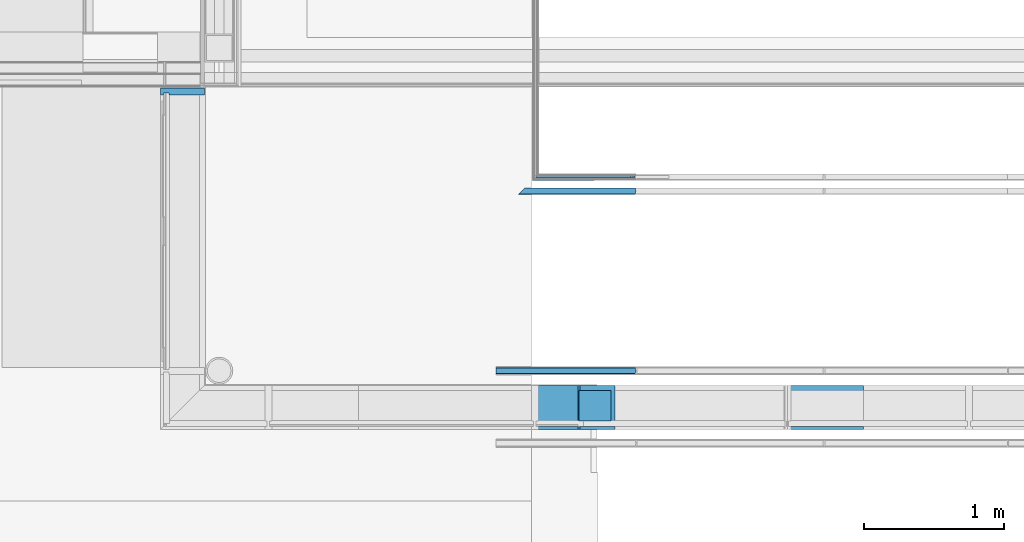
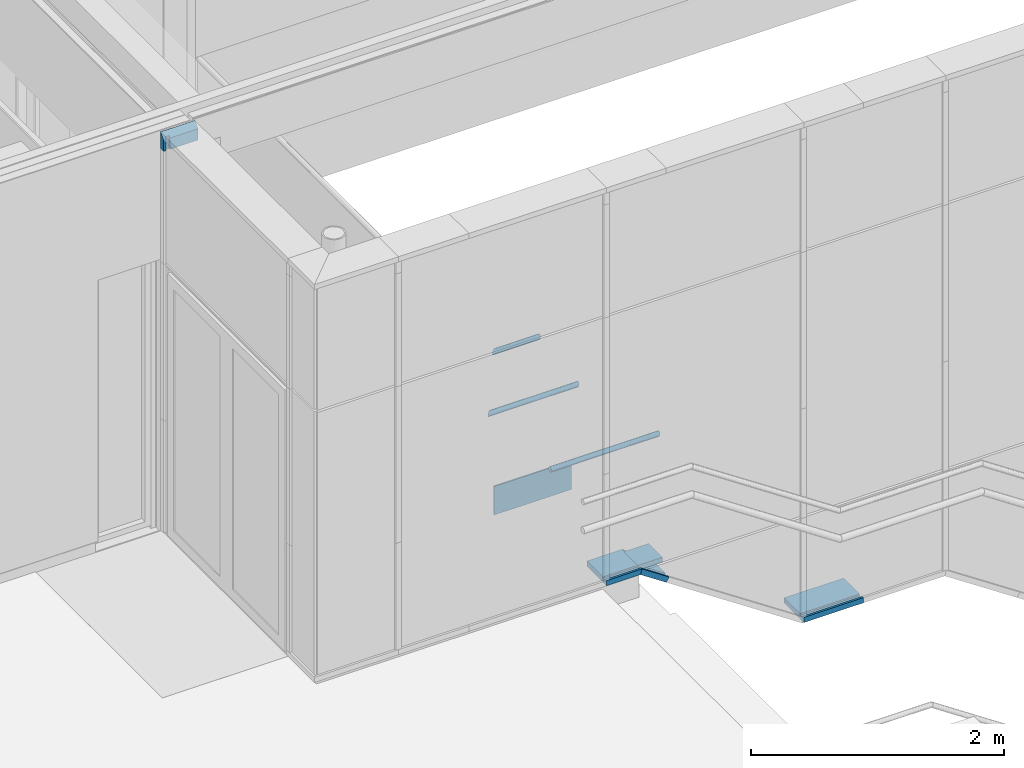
# One storey, part 29 of 137: 8 members, 1 beam, 4 elements without a shape of their own.
"""IFC2X3 building model written with IfcOpenShell, lengths in millimetres."""

from ifc_helpers import new_model, entity, si_unit, converted_unit, derived_unit, money_unit, direction, frame, origin_with_axes, place, context, subcontext, project, spatial, faceted_brep, material, type_object, element, aggregate, save


model = new_model("IFC2X3")

# Units and contexts
model_context = context("Model", 3, precision=0.01, world=origin_with_axes(), true_north=direction((0.0, 1.0)))
body_context = subcontext(model_context, "Body", "Model", "MODEL_VIEW")
ifc_project = project(units=[si_unit("LENGTHUNIT", "METRE", prefix="MILLI"), si_unit("AREAUNIT", "SQUARE_METRE"), si_unit("VOLUMEUNIT", "CUBIC_METRE"), converted_unit("PLANEANGLEUNIT", "DEGREE", entity("IfcPlaneAngleMeasure", 0.0174532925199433), si_unit("PLANEANGLEUNIT", "RADIAN"), dimensions=[0, 0, 0, 0, 0, 0, 0]), money_unit("EUR"), converted_unit("TIMEUNIT", "Year", entity("IfcTimeMeasure", 31556926.0), si_unit("TIMEUNIT", "SECOND"), dimensions=[0, 0, 1, 0, 0, 0, 0]), si_unit("MASSUNIT", "GRAM", prefix="KILO"), si_unit("THERMODYNAMICTEMPERATUREUNIT", "DEGREE_CELSIUS"), si_unit("LUMINOUSINTENSITYUNIT", "LUMEN"), si_unit("ENERGYUNIT", "JOULE", prefix="MEGA"), derived_unit("THERMALCONDUCTANCEUNIT", [(si_unit("POWERUNIT", "WATT"), 1), (si_unit("LENGTHUNIT", "METRE"), -1), (si_unit("THERMODYNAMICTEMPERATUREUNIT", "KELVIN"), -1)]), derived_unit("SPECIFICHEATCAPACITYUNIT", [(si_unit("ENERGYUNIT", "JOULE"), 1), (si_unit("MASSUNIT", "GRAM", prefix="KILO"), -1), (si_unit("THERMODYNAMICTEMPERATUREUNIT", "KELVIN"), -1)]), derived_unit("MASSDENSITYUNIT", [(si_unit("MASSUNIT", "GRAM", prefix="KILO"), 1), (si_unit("VOLUMEUNIT", "CUBIC_METRE"), -1)])], contexts=[model_context])

# Site, building, storey
site_placement = place(None, origin_with_axes())
site = spatial("IfcSite", under=ifc_project, at=site_placement, Name="Site", CompositionType="ELEMENT")
building_placement = place(site_placement, origin_with_axes())
building = spatial("IfcBuilding", under=site, at=building_placement, Name="Naam gebouw", CompositionType="ELEMENT")
storey_placement = place(building_placement, frame((0.0, 0.0, 3960.0), z_axis=(0.0, 0.0, 1.0), x_axis=(1.0, 0.0, 0.0)))
storey = spatial("IfcBuildingStorey", under=building, at=storey_placement, Name="1e verdieping", CompositionType="ELEMENT", Elevation=3960.0)

# Beam
ifc_material_1 = material(Name="Gipsplaat")
beam_type = type_object("IfcBeamType", Name="Gipsplaat 13 x 275", PredefinedType="BEAM")
beam_placement = place(storey_placement, frame((11813.75002486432, 5963.750496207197, -124.9999996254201), z_axis=(0.0, 0.0, 1.0), x_axis=(-6.69320261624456e-07, 0.9999999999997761, 0.0)))
element("IfcBeam", 1, at=beam_placement, inside=storey, type_object=beam_type, material=ifc_material_1, Name="f7 Vormvaste grondstoffen, gebonden met gips_Regenwaterafvoer-x", ObjectType="BEAM", context=body_context, shape_type="Brep", body=[
    faceted_brep([(6.249999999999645, 704.9544323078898, 0.0), (6.249999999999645, 31.59695460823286, 5.696954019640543e-08), (6.249999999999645, 0.0, -21.06463667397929), (6.249999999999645, 0.0, -274.9999999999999), (6.249999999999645, 704.9544323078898, -274.9999999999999), (-6.250000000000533, 704.9544323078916, 0.0), (-6.250000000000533, 31.59696277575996, 1.673408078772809e-07), (-6.250000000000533, 0.0, -21.06464200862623), (-6.250000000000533, 0.0, -274.9999999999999), (-6.250000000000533, 704.9544323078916, -274.9999999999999)], [[[0, 1, 2, 3, 4]], [[5, 6, 1, 0]], [[6, 7, 2, 1]], [[3, 2, 7, 8]], [[9, 4, 3, 8]], [[0, 4, 9, 5]], [[8, 7, 6, 5, 9]]]),
    faceted_brep([(-6.250000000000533, 0.0, 0.0), (-6.250000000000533, 0.0, -9.046137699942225), (6.249999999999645, 0.0, -9.046132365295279), (6.249999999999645, 0.0, 0.0), (-6.250000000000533, 13.56920634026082, 0.0), (6.249999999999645, 13.56919833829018, 0.0)], [[[0, 1, 2, 3]], [[0, 4, 1]], [[4, 5, 2, 1]], [[3, 2, 5]], [[3, 5, 4, 0]]]),
])

# Railing, member
railing_type = type_object("IfcRailingType", Name="Railing Type", PredefinedType="NOTDEFINED")
railing_1_placement = place(storey_placement, frame((18520.00002097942, 5850.000227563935, -3240.0), z_axis=(0.0, 0.0, 1.0), x_axis=(1.0, 0.0, 0.0)))
railing_1 = element("IfcRailing", 2, at=railing_1_placement, inside=storey, type_object=railing_type, Name="34_Reling-x", PredefinedType="NOTDEFINED")
ifc_material_2 = material(Name="Metaal - RVS")
member_type_1 = type_object("IfcMemberType", Name="IfcMember", PredefinedType="USERDEFINED")
member_1_placement = place(railing_1_placement, frame((-7107.514520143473, 9.999797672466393, 3885.99895834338), z_axis=(0.0, 0.0, 1.0), x_axis=(1.0, 0.0, 0.0)))
member_1 = element("IfcMember", 3, at=member_1_placement, type_object=member_type_1, material=ifc_material_2, Name="h3 Staal legeringen_Handregel-x", context=body_context, shape_type="Brep", body=[
    faceted_brep([(400.2025484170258, -24.15000163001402, 29.85104165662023), (401.4722693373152, -23.78310858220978, 34.04464514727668), (-431.3230507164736, -23.78310723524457, 34.04464514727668), (-431.6903348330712, -24.14999999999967, 29.85104165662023), (398.9328273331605, -23.78310914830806, 25.65743816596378), (397.7016859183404, -22.69357897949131, 21.5912551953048), (396.5465317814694, -20.91451594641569, 17.77604165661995), (395.5024636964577, -18.4999759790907, 14.32772088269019), (394.6012051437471, -15.52332365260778, 11.35106835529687), (393.8701404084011, -12.0750030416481, 8.93652815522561), (393.3314825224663, -8.259789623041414, 7.157464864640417), (393.0015983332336, -4.193606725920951, 6.067934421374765), (392.8905112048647, -3.26002869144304e-06, 5.701041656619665), (393.0015964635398, 4.193600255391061, 6.067934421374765), (393.3314788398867, 8.259783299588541, 7.157464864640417), (393.8701350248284, 12.07499695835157, 8.93652815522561), (394.6011982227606, 15.5233178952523, 11.35106835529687), (395.502455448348, 18.49997062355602, 14.32772088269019), (396.5465224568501, 20.91451105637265, 17.77604165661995), (397.7016758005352, 22.69357460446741, 21.5912551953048), (398.9328167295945, 23.78310532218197, 25.65743816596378), (400.2025376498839, 24.14999836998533, 29.85104165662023), (401.4722587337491, 23.78310588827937, 34.04464514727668), (402.7034001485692, 22.69357571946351, 38.11082811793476), (403.8585542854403, 20.914512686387, 41.92604165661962), (404.9026223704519, 18.49997271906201, 45.37436243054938), (405.8038809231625, 15.52332039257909, 48.35101495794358), (406.5349456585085, 12.07499978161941, 50.76555515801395), (407.0736035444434, 8.259786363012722, 52.54461844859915), (407.4034877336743, 4.193603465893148, 53.6341488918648), (407.514574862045, 0.0, 54.0010416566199), (407.4034896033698, -4.193603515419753, 53.6341488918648), (407.0736072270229, -8.259786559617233, 52.54461844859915), (406.5349510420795, -12.07500021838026, 50.76555515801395), (405.803887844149, -15.52332115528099, 48.35101495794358), (404.9026306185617, -18.49997388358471, 45.37436243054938), (403.8585636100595, -20.91451431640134, 41.92604165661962), (402.7034102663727, -22.69357786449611, 38.11082811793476), (-430.2323581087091, -22.69357679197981, 38.11082811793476), (-428.4513971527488, -20.91451350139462, 41.92604165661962), (-426.034281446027, -18.49997330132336, 45.37436243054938), (-423.0544538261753, -15.52332077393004, 48.35101495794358), (-419.6024548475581, -12.07500000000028, 50.76555515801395), (-415.7831717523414, -8.259786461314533, 52.54461844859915), (-411.7126515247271, -4.19360349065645, 53.6341488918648), (-407.514574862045, 0.0, 54.0010416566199), (-403.3164981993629, 4.19360349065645, 53.6341488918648), (-399.2459779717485, 8.259786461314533, 52.54461844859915), (-395.4266948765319, 12.07500000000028, 50.76555515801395), (-391.9746958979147, 15.52332077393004, 48.35101495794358), (-388.9948682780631, 18.49997330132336, 45.37436243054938), (-386.5777525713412, 20.91451350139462, 41.92604165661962), (-384.7967916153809, 22.69357679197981, 38.11082811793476), (-383.7060990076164, 23.78310723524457, 34.04464514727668), (-383.3388148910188, 24.14999999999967, 29.85104165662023), (-383.7060990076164, 23.78310723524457, 25.65743816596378), (-384.7967916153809, 22.69357679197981, 21.5912551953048), (-386.5777525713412, 20.91451350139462, 17.77604165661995), (-388.9948682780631, 18.49997330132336, 14.32772088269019), (-391.9746958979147, 15.52332077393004, 11.35106835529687), (-395.4266948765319, 12.07500000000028, 8.93652815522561), (-399.2459779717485, 8.259786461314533, 7.157464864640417), (-403.3164981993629, 4.19360349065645, 6.067934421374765), (-407.514574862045, 0.0, 5.701041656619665), (-411.7126515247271, -4.19360349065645, 6.067934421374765), (-415.7831717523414, -8.259786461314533, 7.157464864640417), (-419.6024548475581, -12.07500000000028, 8.93652815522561), (-423.0544538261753, -15.52332077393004, 11.35106835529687), (-426.034281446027, -18.49997330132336, 14.32772088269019), (-428.4513971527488, -20.91451350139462, 17.77604165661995), (-430.2323581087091, -22.69357679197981, 21.5912551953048), (-431.3230507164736, -23.78310723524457, 25.65743816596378)], [[[0, 1, 2, 3]], [[0, 4, 5, 6, 7, 8, 9, 10, 11, 12, 13, 14, 15, 16, 17, 18, 19, 20, 21, 22, 23, 24, 25, 26, 27, 28, 29, 30, 31, 32, 33, 34, 35, 36, 37, 1]], [[1, 37, 38, 2]], [[3, 2, 38, 39, 40, 41, 42, 43, 44, 45, 46, 47, 48, 49, 50, 51, 52, 53, 54, 55, 56, 57, 58, 59, 60, 61, 62, 63, 64, 65, 66, 67, 68, 69, 70, 71]], [[4, 0, 3, 71]], [[5, 4, 71, 70]], [[6, 5, 70, 69]], [[7, 6, 69, 68]], [[8, 7, 68, 67]], [[9, 8, 67, 66]], [[10, 9, 66, 65]], [[11, 10, 65, 64]], [[12, 11, 64, 63]], [[13, 12, 63, 62]], [[14, 13, 62, 61]], [[15, 14, 61, 60]], [[16, 15, 60, 59]], [[17, 16, 59, 58]], [[18, 17, 58, 57]], [[19, 18, 57, 56]], [[20, 19, 56, 55]], [[21, 20, 55, 54]], [[22, 21, 54, 53]], [[23, 22, 53, 52]], [[24, 23, 52, 51]], [[25, 24, 51, 50]], [[26, 25, 50, 49]], [[27, 26, 49, 48]], [[28, 27, 48, 47]], [[29, 28, 47, 46]], [[30, 29, 46, 45]], [[31, 30, 45, 44]], [[32, 31, 44, 43]], [[33, 32, 43, 42]], [[34, 33, 42, 41]], [[35, 34, 41, 40]], [[36, 35, 40, 39]], [[37, 36, 39, 38]]]),
])
aggregate(railing_1, [member_1])

railing_2_placement = place(storey_placement, frame((18789.99987047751, 4479.999999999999, -4086.699999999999), z_axis=(0.0, 0.0, 1.0), x_axis=(1.0, 0.0, 0.0)))
railing_2 = element("IfcRailing", 4, at=railing_2_placement, inside=storey, type_object=railing_type, Name="34_Reling-x", PredefinedType="NOTDEFINED")
member_2_placement = place(railing_2_placement, frame((-7468.117360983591, 99.99999999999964, 5032.675675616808), z_axis=(0.0, 0.0, 1.0), x_axis=(1.0, 0.0, 0.0)))
member_2 = element("IfcMember", 5, at=member_2_placement, type_object=member_type_1, material=ifc_material_2, Name="h3 Staal legeringen_", context=body_context, shape_type="Brep", body=[
    faceted_brep([(490.8055038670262, -24.14999999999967, 29.85104165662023), (492.0752249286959, -23.78310723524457, 34.04464514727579), (-498.1175360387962, -23.78310723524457, 34.04464514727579), (-498.1175360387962, -24.14999999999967, 29.85104165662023), (489.5357828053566, -23.78310723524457, 25.65743816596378), (488.3046415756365, -22.69357679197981, 21.5912551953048), (487.1494877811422, -20.91451350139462, 17.77604165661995), (486.1054201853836, -18.49997330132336, 14.32772088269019), (485.204162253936, -15.52332077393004, 11.35106835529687), (484.4730982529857, -12.07500000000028, 8.93652815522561), (483.9344411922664, -8.259786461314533, 7.157464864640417), (483.6045578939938, -4.19360349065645, 6.067934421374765), (483.4934716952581, 0.0, 5.701041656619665), (483.6045578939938, 4.19360349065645, 6.067934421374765), (483.9344411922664, 8.259786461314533, 7.157464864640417), (484.4730982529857, 12.07500000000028, 8.93652815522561), (485.204162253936, 15.52332077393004, 11.35106835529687), (486.1054201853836, 18.49997330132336, 14.32772088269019), (487.1494877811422, 20.91451350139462, 17.77604165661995), (488.3046415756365, 22.69357679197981, 21.5912551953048), (489.5357828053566, 23.78310723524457, 25.65743816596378), (490.8055038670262, 24.14999999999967, 29.85104165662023), (492.0752249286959, 23.78310723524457, 34.04464514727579), (493.3063661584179, 22.69357679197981, 38.11082811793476), (494.4615199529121, 20.91451350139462, 41.92604165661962), (495.5055875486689, 18.49997330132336, 45.37436243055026), (496.4068454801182, 15.52332077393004, 48.35101495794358), (497.1379094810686, 12.07500000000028, 50.76555515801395), (497.6765665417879, 8.259786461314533, 52.54461844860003), (498.0064498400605, 4.19360349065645, 53.6341488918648), (498.1175360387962, 0.0, 54.0010416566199), (498.0064498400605, -4.19360349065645, 53.6341488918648), (497.6765665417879, -8.259786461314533, 52.54461844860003), (497.1379094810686, -12.07500000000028, 50.76555515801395), (496.4068454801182, -15.52332077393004, 48.35101495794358), (495.5055875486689, -18.49997330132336, 45.37436243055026), (494.4615199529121, -20.91451350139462, 41.92604165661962), (493.3063661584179, -22.69357679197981, 38.11082811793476), (-498.1175360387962, -22.69357679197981, 38.11082811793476), (-498.1175360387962, -20.91451350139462, 41.92604165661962), (-498.1175360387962, -18.49997330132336, 45.37436243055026), (-498.1175360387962, -15.52332077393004, 48.35101495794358), (-498.1175360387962, -12.07500000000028, 50.76555515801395), (-498.1175360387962, -8.259786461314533, 52.54461844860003), (-498.1175360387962, -4.19360349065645, 53.6341488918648), (-498.1175360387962, 0.0, 54.0010416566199), (-498.1175360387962, 4.19360349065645, 53.6341488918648), (-498.1175360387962, 8.259786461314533, 52.54461844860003), (-498.1175360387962, 12.07500000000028, 50.76555515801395), (-498.1175360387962, 15.52332077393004, 48.35101495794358), (-498.1175360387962, 18.49997330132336, 45.37436243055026), (-498.1175360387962, 20.91451350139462, 41.92604165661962), (-498.1175360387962, 22.69357679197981, 38.11082811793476), (-498.1175360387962, 23.78310723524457, 34.04464514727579), (-498.1175360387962, 24.14999999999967, 29.85104165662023), (-498.1175360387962, 23.78310723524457, 25.65743816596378), (-498.1175360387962, 22.69357679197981, 21.5912551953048), (-498.1175360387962, 20.91451350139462, 17.77604165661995), (-498.1175360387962, 18.49997330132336, 14.32772088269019), (-498.1175360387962, 15.52332077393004, 11.35106835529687), (-498.1175360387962, 12.07500000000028, 8.93652815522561), (-498.1175360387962, 8.259786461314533, 7.157464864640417), (-498.1175360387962, 4.19360349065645, 6.067934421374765), (-498.1175360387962, 0.0, 5.701041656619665), (-498.1175360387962, -4.19360349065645, 6.067934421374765), (-498.1175360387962, -8.259786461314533, 7.157464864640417), (-498.1175360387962, -12.07500000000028, 8.93652815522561), (-498.1175360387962, -15.52332077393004, 11.35106835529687), (-498.1175360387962, -18.49997330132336, 14.32772088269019), (-498.1175360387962, -20.91451350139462, 17.77604165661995), (-498.1175360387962, -22.69357679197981, 21.5912551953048), (-498.1175360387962, -23.78310723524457, 25.65743816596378)], [[[0, 1, 2, 3]], [[0, 4, 5, 6, 7, 8, 9, 10, 11, 12, 13, 14, 15, 16, 17, 18, 19, 20, 21, 22, 23, 24, 25, 26, 27, 28, 29, 30, 31, 32, 33, 34, 35, 36, 37, 1]], [[1, 37, 38, 2]], [[3, 2, 38, 39, 40, 41, 42, 43, 44, 45, 46, 47, 48, 49, 50, 51, 52, 53, 54, 55, 56, 57, 58, 59, 60, 61, 62, 63, 64, 65, 66, 67, 68, 69, 70, 71]], [[4, 0, 3, 71]], [[5, 4, 71, 70]], [[6, 5, 70, 69]], [[7, 6, 69, 68]], [[8, 7, 68, 67]], [[9, 8, 67, 66]], [[10, 9, 66, 65]], [[11, 10, 65, 64]], [[12, 11, 64, 63]], [[13, 12, 63, 62]], [[14, 13, 62, 61]], [[15, 14, 61, 60]], [[16, 15, 60, 59]], [[17, 16, 59, 58]], [[18, 17, 58, 57]], [[19, 18, 57, 56]], [[20, 19, 56, 55]], [[21, 20, 55, 54]], [[22, 21, 54, 53]], [[23, 22, 53, 52]], [[24, 23, 52, 51]], [[25, 24, 51, 50]], [[26, 25, 50, 49]], [[27, 26, 49, 48]], [[28, 27, 48, 47]], [[29, 28, 47, 46]], [[30, 29, 46, 45]], [[31, 30, 45, 44]], [[32, 31, 44, 43]], [[33, 32, 43, 42]], [[34, 33, 42, 41]], [[35, 34, 41, 40]], [[36, 35, 40, 39]], [[37, 36, 39, 38]]]),
])
aggregate(railing_2, [member_2])

railing_3_placement = place(storey_placement, frame((18520.00002097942, 5850.000227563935, -3240.0), z_axis=(0.0, 0.0, 1.0), x_axis=(1.0, 0.0, 0.0)))
railing_3 = element("IfcRailing", 6, at=railing_3_placement, inside=storey, type_object=railing_type, Name="34_Reling-x", PredefinedType="NOTDEFINED")
member_3_placement = place(railing_3_placement, frame((-7204.630176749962, 109.999797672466, 4385.99895834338), z_axis=(0.0, 0.0, 1.0), x_axis=(1.0, 0.0, 0.0)))
member_3 = element("IfcMember", 7, at=member_3_placement, type_object=member_type_1, material=ifc_material_2, Name="h3 Staal legeringen_", context=body_context, shape_type="Brep", body=[
    faceted_brep([(202.9855557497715, -24.15000163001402, 29.85104165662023), (204.2552766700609, -23.78310858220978, 34.04464514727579), (-234.1060580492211, -23.78310723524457, 34.04464514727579), (-234.4733421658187, -24.14999999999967, 29.85104165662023), (201.7158346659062, -23.78310914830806, 25.65743816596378), (200.4846932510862, -22.69357897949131, 21.5912551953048), (199.3295391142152, -20.91451594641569, 17.77604165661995), (198.2854710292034, -18.4999759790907, 14.32772088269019), (197.3842124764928, -15.52332365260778, 11.35106835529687), (196.6531477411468, -12.0750030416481, 8.93652815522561), (196.1144898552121, -8.259789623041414, 7.157464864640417), (195.7846056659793, -4.193606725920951, 6.067934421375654), (195.6735185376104, -3.26002869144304e-06, 5.701041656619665), (195.7846037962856, 4.193600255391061, 6.067934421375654), (196.1144861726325, 8.259783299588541, 7.157464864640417), (196.6531423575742, 12.07499695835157, 8.93652815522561), (197.3842055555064, 15.5233178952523, 11.35106835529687), (198.2854627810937, 18.49997062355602, 14.32772088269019), (199.3295297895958, 20.91451105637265, 17.77604165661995), (200.484683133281, 22.69357460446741, 21.5912551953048), (201.7158240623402, 23.78310532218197, 25.65743816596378), (202.9855449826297, 24.14999836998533, 29.85104165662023), (204.2552660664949, 23.78310588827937, 34.04464514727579), (205.486407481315, 22.69357571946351, 38.11082811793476), (206.641561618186, 20.914512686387, 41.92604165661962), (207.6856297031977, 18.49997271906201, 45.37436243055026), (208.5868882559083, 15.52332039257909, 48.3510149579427), (209.3179529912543, 12.07499978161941, 50.76555515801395), (209.8566108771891, 8.259786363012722, 52.54461844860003), (210.1864950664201, 4.193603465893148, 53.6341488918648), (210.2975821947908, 0.0, 54.0010416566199), (210.1864969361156, -4.193603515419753, 53.6341488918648), (209.8566145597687, -8.259786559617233, 52.54461844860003), (209.3179583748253, -12.07500021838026, 50.76555515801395), (208.5868951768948, -15.52332115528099, 48.3510149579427), (207.6856379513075, -18.49997388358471, 45.37436243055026), (206.6415709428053, -20.91451431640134, 41.92604165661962), (205.4864175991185, -22.69357786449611, 38.11082811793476), (-233.0153654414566, -22.69357679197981, 38.11082811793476), (-231.2344044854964, -20.91451350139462, 41.92604165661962), (-228.8172887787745, -18.49997330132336, 45.37436243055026), (-225.8374611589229, -15.52332077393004, 48.3510149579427), (-222.3854621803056, -12.07500000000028, 50.76555515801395), (-218.566179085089, -8.259786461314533, 52.54461844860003), (-214.4956588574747, -4.19360349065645, 53.6341488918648), (-210.2975821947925, 0.0, 54.0010416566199), (-206.0995055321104, 4.19360349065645, 53.6341488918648), (-202.0289853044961, 8.259786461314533, 52.54461844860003), (-198.2097022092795, 12.07500000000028, 50.76555515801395), (-194.7577032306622, 15.52332077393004, 48.3510149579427), (-191.7778756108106, 18.49997330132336, 45.37436243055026), (-189.3607599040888, 20.91451350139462, 41.92604165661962), (-187.5797989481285, 22.69357679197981, 38.11082811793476), (-186.489106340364, 23.78310723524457, 34.04464514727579), (-186.1218222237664, 24.14999999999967, 29.85104165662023), (-186.489106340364, 23.78310723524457, 25.65743816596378), (-187.5797989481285, 22.69357679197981, 21.5912551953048), (-189.3607599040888, 20.91451350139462, 17.77604165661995), (-191.7778756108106, 18.49997330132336, 14.32772088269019), (-194.7577032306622, 15.52332077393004, 11.35106835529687), (-198.2097022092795, 12.07500000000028, 8.93652815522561), (-202.0289853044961, 8.259786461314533, 7.157464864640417), (-206.0995055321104, 4.19360349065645, 6.067934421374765), (-210.2975821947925, 0.0, 5.701041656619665), (-214.4956588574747, -4.19360349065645, 6.067934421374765), (-218.566179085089, -8.259786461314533, 7.157464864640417), (-222.3854621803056, -12.07500000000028, 8.93652815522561), (-225.8374611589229, -15.52332077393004, 11.35106835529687), (-228.8172887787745, -18.49997330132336, 14.32772088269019), (-231.2344044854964, -20.91451350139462, 17.77604165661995), (-233.0153654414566, -22.69357679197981, 21.5912551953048), (-234.1060580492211, -23.78310723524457, 25.65743816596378)], [[[0, 1, 2, 3]], [[0, 4, 5, 6, 7, 8, 9, 10, 11, 12, 13, 14, 15, 16, 17, 18, 19, 20, 21, 22, 23, 24, 25, 26, 27, 28, 29, 30, 31, 32, 33, 34, 35, 36, 37, 1]], [[1, 37, 38, 2]], [[3, 2, 38, 39, 40, 41, 42, 43, 44, 45, 46, 47, 48, 49, 50, 51, 52, 53, 54, 55, 56, 57, 58, 59, 60, 61, 62, 63, 64, 65, 66, 67, 68, 69, 70, 71]], [[4, 0, 3, 71]], [[5, 4, 71, 70]], [[6, 5, 70, 69]], [[7, 6, 69, 68]], [[8, 7, 68, 67]], [[9, 8, 67, 66]], [[10, 9, 66, 65]], [[11, 10, 65, 64]], [[12, 11, 64, 63]], [[13, 12, 63, 62]], [[14, 13, 62, 61]], [[15, 14, 61, 60]], [[16, 15, 60, 59]], [[17, 16, 59, 58]], [[18, 17, 58, 57]], [[19, 18, 57, 56]], [[20, 19, 56, 55]], [[21, 20, 55, 54]], [[22, 21, 54, 53]], [[23, 22, 53, 52]], [[24, 23, 52, 51]], [[25, 24, 51, 50]], [[26, 25, 50, 49]], [[27, 26, 49, 48]], [[28, 27, 48, 47]], [[29, 28, 47, 46]], [[30, 29, 46, 45]], [[31, 30, 45, 44]], [[32, 31, 44, 43]], [[33, 32, 43, 42]], [[34, 33, 42, 41]], [[35, 34, 41, 40]], [[36, 35, 40, 39]], [[37, 36, 39, 38]]]),
])
aggregate(railing_3, [member_3])

# Curtain wall, members
curtain_wall_type = type_object("IfcCurtainWallType", Name="Curtain Wall Type", PredefinedType="NOTDEFINED")
curtain_wall_placement = place(storey_placement, frame((8473.014787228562, 4364.43626274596, -3949.999921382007), z_axis=(0.0, 0.0, 1.0), x_axis=(1.0, 0.0, 0.0)))
curtain_wall = element("IfcCurtainWall", 8, at=curtain_wall_placement, inside=storey, type_object=curtain_wall_type, Name="21_Vliesgevel-x")
ifc_material_3 = material(Name="Metaal - Staal AFW")
member_type_2 = type_object("IfcMemberType", Name="Boundary Frame 50 x 313", PredefinedType="MULLION")
member_4_placement = place(curtain_wall_placement, frame((4426.980383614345, -161.43626274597, 2974.712843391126), z_axis=(1.0, 0.0, 0.0), x_axis=(0.0, 0.0, 1.0)))
member_4 = element("IfcMember", 9, at=member_4_placement, type_object=member_type_2, material=ifc_material_3, Name="h METAAL_Kader-x", ObjectType="MULLION", context=body_context, shape_type="Brep", body=[
    faceted_brep([(35.00000000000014, -17.4000000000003, 0.0), (35.00000000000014, 20.99999999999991, 0.0), (35.00000000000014, 20.99999999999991, 542.961262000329), (35.00000000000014, -17.4000000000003, 542.961262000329), (15.00000000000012, -17.4000000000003, 0.0), (15.00000000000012, 20.99999999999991, 0.0), (15.00000000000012, 20.99999999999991, 542.961262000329), (15.00000000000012, -17.4000000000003, 542.961262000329)], [[[0, 1, 2, 3]], [[0, 4, 5, 1]], [[1, 5, 6, 2]], [[3, 2, 6, 7]], [[4, 0, 3, 7]], [[5, 4, 7, 6]]]),
    faceted_brep([(15.00000000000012, -20.99999999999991, 0.0), (15.00000000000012, 20.99999999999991, 0.0), (15.00000000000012, 20.99999999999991, 542.961262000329), (15.00000000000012, -20.99999999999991, 542.961262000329), (0.0, -20.99999999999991, 0.0), (0.0, 20.99999999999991, 0.0), (0.0, 20.99999999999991, 542.961262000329), (0.0, -20.99999999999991, 542.961262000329)], [[[0, 1, 2, 3]], [[0, 4, 5, 1]], [[1, 5, 6, 2]], [[3, 2, 6, 7]], [[4, 0, 3, 7]], [[5, 4, 7, 6]]]),
    faceted_brep([(49.99999999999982, -272.0000000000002, 0.0), (49.99999999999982, -17.4000000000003, 0.0), (49.99999999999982, -17.4000000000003, 542.961262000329), (49.99999999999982, -272.0000000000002, 542.961262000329), (0.0, -272.0000000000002, 0.0), (0.0, -17.4000000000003, 0.0), (0.0, -17.4000000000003, 542.961262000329), (0.0, -272.0000000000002, 542.961262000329)], [[[0, 1, 2, 3]], [[0, 4, 5, 1]], [[1, 5, 6, 2]], [[3, 2, 6, 7]], [[4, 0, 3, 7]], [[5, 4, 7, 6]]]),
    faceted_brep([(0.0, 41.00000000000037, 0.0), (0.0, 20.99999999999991, 0.0), (0.0, 20.99999999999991, 542.961262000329), (0.0, 41.00000000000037, 542.961262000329), (49.99999999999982, 41.00000000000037, 0.0), (49.99999999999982, 20.99999999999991, 0.0), (49.99999999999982, 20.99999999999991, 542.961262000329), (49.99999999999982, 41.00000000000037, 542.961262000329)], [[[0, 1, 2, 3]], [[0, 4, 5, 1]], [[1, 5, 6, 2]], [[3, 2, 6, 7]], [[4, 0, 3, 7]], [[5, 4, 7, 6]]]),
])
member_5_placement = place(curtain_wall_placement, frame((2933.910413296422, -161.43626274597, 3960.000082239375), z_axis=(0.832050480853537, 0.0, -0.5546999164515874), x_axis=(0.5546999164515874, 0.0, 0.832050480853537)))
member_5 = element("IfcMember", 10, at=member_5_placement, type_object=member_type_2, material=ifc_material_3, Name="h METAAL_Kader-x", ObjectType="MULLION", context=body_context, shape_type="Brep", body=[
    faceted_brep([(34.99999999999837, 20.99999999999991, -10.59714089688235), (35.00000000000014, 20.99999999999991, 283.6741772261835), (35.00000000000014, -17.4000000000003, 283.6741772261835), (34.99999999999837, -17.4000000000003, -10.59714089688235), (14.99999999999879, 20.99999999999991, -4.54163181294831), (15.00000000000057, 20.99999999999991, 283.6741772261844), (15.00000000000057, -17.4000000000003, 283.6741772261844), (14.99999999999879, -17.4000000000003, -4.54163181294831)], [[[0, 1, 2, 3]], [[4, 5, 1, 0]], [[2, 1, 5, 6]], [[3, 2, 6, 7]], [[3, 7, 4, 0]], [[7, 6, 5, 4]]]),
    faceted_brep([(14.99999999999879, 20.99999999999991, -4.54163181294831), (15.00000000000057, 20.99999999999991, 283.6741772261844), (15.00000000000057, -20.99999999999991, 283.6741772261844), (14.99999999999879, -20.99999999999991, -4.54163181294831), (0.0, 20.99999999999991, 0.0), (0.0, 20.99999999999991, 283.6741772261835), (0.0, -20.99999999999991, 283.6741772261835), (0.0, -20.99999999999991, 0.0)], [[[0, 1, 2, 3]], [[4, 5, 1, 0]], [[2, 1, 5, 6]], [[3, 2, 6, 7]], [[3, 7, 4, 0]], [[7, 6, 5, 4]]]),
    faceted_brep([(0.0, -272.0000000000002, 283.6741772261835), (0.0, -17.4000000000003, 283.6741772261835), (0.0, -17.4000000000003, 0.0), (0.0, -272.0000000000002, 0.0), (49.99999999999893, -272.0000000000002, 283.6741772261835), (49.99999999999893, -17.4000000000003, 283.6741772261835), (49.99999999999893, -17.4000000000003, -15.13877270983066), (49.99999999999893, -272.0000000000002, -15.13877270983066)], [[[0, 1, 2, 3]], [[1, 0, 4, 5]], [[2, 1, 5, 6]], [[2, 6, 7, 3]], [[0, 3, 7, 4]], [[7, 6, 5, 4]]]),
    faceted_brep([(0.0, 20.99999999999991, 283.6741772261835), (0.0, 41.00000000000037, 283.6741772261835), (0.0, 41.00000000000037, 0.0), (0.0, 20.99999999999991, 0.0), (49.99999999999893, 20.99999999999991, 283.6741772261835), (49.99999999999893, 41.00000000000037, 283.6741772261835), (49.99999999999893, 41.00000000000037, -15.13877270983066), (49.99999999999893, 20.99999999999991, -15.13877270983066)], [[[0, 1, 2, 3]], [[1, 0, 4, 5]], [[2, 1, 5, 6]], [[3, 2, 6, 7]], [[0, 3, 7, 4]], [[7, 6, 5, 4]]]),
])
member_6_placement = place(curtain_wall_placement, frame((2626.986544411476, -161.43626274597, 3960.000082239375), z_axis=(1.0, 0.0, 0.0), x_axis=(0.0, 0.0, 1.0)))
member_6 = element("IfcMember", 11, at=member_6_placement, type_object=member_type_2, material=ifc_material_3, Name="h METAAL_Kader-x", ObjectType="MULLION", context=body_context, shape_type="Brep", body=[
    faceted_brep([(35.00000000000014, -17.4000000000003, 0.0), (35.00000000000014, 20.99999999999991, 0.0), (35.00000000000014, 20.99999999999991, 317.521009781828), (35.00000000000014, -17.4000000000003, 317.521009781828), (15.00000000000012, -17.4000000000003, 0.0), (15.00000000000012, 20.99999999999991, 0.0), (15.00000000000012, 20.99999999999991, 311.4655006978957), (15.00000000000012, -17.4000000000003, 311.4655006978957)], [[[0, 1, 2, 3]], [[0, 4, 5, 1]], [[1, 5, 6, 2]], [[3, 2, 6, 7]], [[4, 0, 3, 7]], [[5, 4, 7, 6]]]),
    faceted_brep([(15.00000000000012, -20.99999999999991, 0.0), (15.00000000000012, 20.99999999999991, 0.0), (15.00000000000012, 20.99999999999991, 311.4655006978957), (15.00000000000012, -20.99999999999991, 311.4655006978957), (0.0, -20.99999999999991, 0.0), (0.0, 20.99999999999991, 0.0), (0.0, 20.99999999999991, 306.9238688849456), (0.0, -20.99999999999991, 306.9238688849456)], [[[0, 1, 2, 3]], [[0, 4, 5, 1]], [[1, 5, 6, 2]], [[3, 2, 6, 7]], [[4, 0, 3, 7]], [[5, 4, 7, 6]]]),
    faceted_brep([(0.0, -17.4000000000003, 0.0), (0.0, -272.0000000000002, 0.0), (0.0, -272.0000000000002, 306.9238688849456), (0.0, -17.4000000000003, 306.9238688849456), (49.99999999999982, -17.4000000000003, 0.0), (49.99999999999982, -272.0000000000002, 0.0), (49.99999999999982, -272.0000000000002, 322.062641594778), (49.99999999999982, -17.4000000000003, 322.062641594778)], [[[0, 1, 2, 3]], [[1, 0, 4, 5]], [[2, 1, 5, 6]], [[7, 3, 2, 6]], [[0, 3, 7, 4]], [[5, 4, 7, 6]]]),
    faceted_brep([(0.0, 41.00000000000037, 0.0), (0.0, 20.99999999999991, 0.0), (0.0, 20.99999999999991, 306.9238688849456), (0.0, 41.00000000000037, 306.9238688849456), (49.99999999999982, 41.00000000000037, 0.0), (49.99999999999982, 20.99999999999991, 0.0), (49.99999999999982, 20.99999999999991, 322.062641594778), (49.99999999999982, 41.00000000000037, 322.062641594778)], [[[0, 1, 2, 3]], [[1, 0, 4, 5]], [[2, 1, 5, 6]], [[3, 2, 6, 7]], [[0, 3, 7, 4]], [[5, 4, 7, 6]]]),
])
member_7_placement = place(curtain_wall_placement, frame((0.0, 2229.563386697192, 7639.999766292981), z_axis=(0.0, 0.0, 1.0), x_axis=(0.0, 1.0, 0.0)))
member_7 = element("IfcMember", 12, at=member_7_placement, type_object=member_type_2, material=ifc_material_3, Name="h METAAL_Kader-x", ObjectType="MULLION", context=body_context, shape_type="Brep", body=[
    faceted_brep([(-35.00000000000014, -17.4000000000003, 0.0), (-35.00000000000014, -17.4000000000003, 125.0002751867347), (-35.00000000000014, 21.0000000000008, 125.0002751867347), (-35.00000000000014, 21.0000000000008, 0.0), (-14.99999999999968, -17.4000000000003, 0.0), (-14.99999999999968, -17.4000000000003, 145.0002751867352), (-14.99999999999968, 21.0000000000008, 145.0002751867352), (-14.99999999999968, 21.0000000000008, 0.0)], [[[0, 1, 2, 3]], [[4, 5, 1, 0]], [[1, 5, 6, 2]], [[3, 2, 6, 7]], [[0, 3, 7, 4]], [[7, 6, 5, 4]]]),
    faceted_brep([(-14.99999999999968, -21.0000000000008, 0.0), (-14.99999999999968, -21.0000000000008, 145.0002751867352), (-14.99999999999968, 21.0000000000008, 145.0002751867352), (-14.99999999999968, 21.0000000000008, 0.0), (0.0, -21.0000000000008, 0.0), (0.0, -21.0000000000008, 160.0002751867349), (0.0, 21.0000000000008, 160.0002751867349), (0.0, 21.0000000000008, 0.0)], [[[0, 1, 2, 3]], [[4, 5, 1, 0]], [[1, 5, 6, 2]], [[3, 2, 6, 7]], [[0, 3, 7, 4]], [[7, 6, 5, 4]]]),
    faceted_brep([(-49.99999999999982, -272.0000000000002, 0.0), (-49.99999999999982, -272.0000000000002, 110.0002751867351), (-49.99999999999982, -17.4000000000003, 110.0002751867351), (-49.99999999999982, -17.4000000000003, 0.0), (0.0, -272.0000000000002, 0.0), (0.0, -272.0000000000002, 160.0002751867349), (0.0, -17.4000000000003, 160.0002751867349), (0.0, -17.4000000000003, 0.0)], [[[0, 1, 2, 3]], [[4, 5, 1, 0]], [[1, 5, 6, 2]], [[3, 2, 6, 7]], [[0, 3, 7, 4]], [[7, 6, 5, 4]]]),
    faceted_brep([(0.0, 41.00000000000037, 0.0), (0.0, 41.00000000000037, 160.0002751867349), (0.0, 21.0000000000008, 160.0002751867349), (0.0, 21.0000000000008, 0.0), (-49.99999999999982, 41.00000000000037, 0.0), (-49.99999999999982, 41.00000000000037, 110.0002751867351), (-49.99999999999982, 21.0000000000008, 110.0002751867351), (-49.99999999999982, 21.0000000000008, 0.0)], [[[0, 1, 2, 3]], [[4, 5, 1, 0]], [[1, 5, 6, 2]], [[3, 2, 6, 7]], [[0, 3, 7, 4]], [[7, 6, 5, 4]]]),
])
member_type_3 = type_object("IfcMemberType", Name="Transom Frame 50 x 258", PredefinedType="MULLION")
member_8_placement = place(curtain_wall_placement, frame((2943.330322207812, -161.43626274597, 3984.999901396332), z_axis=(0.9999999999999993, 0.0, 3.718980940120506e-08), x_axis=(-3.718980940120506e-08, 0.0, 0.9999999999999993)))
member_8 = element("IfcMember", 13, at=member_8_placement, type_object=member_type_3, material=ifc_material_3, Name="h METAAL_Kader-x", ObjectType="MULLION", context=body_context, shape_type="Brep", body=[
    faceted_brep([(25.00000000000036, -237.0000000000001, 9.297451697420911e-07), (25.00000000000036, -17.4000000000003, 9.297451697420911e-07), (24.99999157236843, -17.4000000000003, 226.6113249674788), (24.99999157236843, -237.0000000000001, 226.6113249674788), (-24.99999999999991, -237.0000000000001, -9.297451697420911e-07), (-24.99999999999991, -17.4000000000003, -9.297451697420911e-07), (-25.00000842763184, -17.4000000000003, 226.6113231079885), (-25.00000842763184, -237.0000000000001, 226.6113231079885)], [[[0, 1, 2, 3]], [[0, 4, 5, 1]], [[1, 5, 6, 2]], [[3, 2, 6, 7]], [[4, 0, 3, 7]], [[5, 4, 7, 6]]]),
])
aggregate(curtain_wall, [member_4, member_5, member_6, member_8, member_7])

save(model, "model.ifc")
